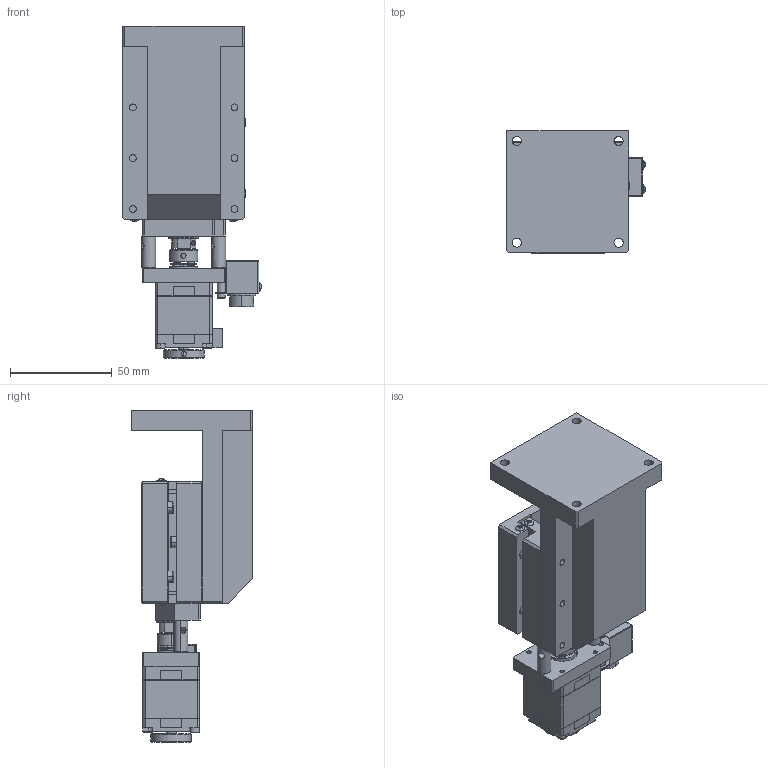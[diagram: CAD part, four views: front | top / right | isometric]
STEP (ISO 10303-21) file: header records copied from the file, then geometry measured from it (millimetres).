
FILE_DESCRIPTION (( 'STEP AP214' ), '1' );
FILE_NAME ('TZS6020B-L1-M28L.STEP', '2025-01-03T09:05:29', ( '' ), ( '' ), 'SwSTEP 2.0', 'SolidWorks 2020', '' );
FILE_SCHEMA (( 'AUTOMOTIVE_DESIGN' ));
Length unit declared in the file: millimetre
Products named in the file (3): D0201-001285 蛌諉啣60x60x96; TXS6020B-L1-M28L; TZS6020B-L1-M28L
Assembly tree (2 placements, depth 2):
  TZS6020B-L1-M28L
    TXS6020B-L1-M28L
    D0201-001285 蛌諉啣60x60x96
Bounding box: 68.13 x 60 x 163.3 mm (x, y, z)
Volume: 242988.4 mm3; surface area: 84801.1 mm2
Topology: 83 solids, 83 shells, 1980 faces, 5138 edges, 3259 vertices
Faces by surface type: plane 966, cylinder 659, cone 175, torus 80, bspline 68, sphere 32
Entity records: 66259 total; most frequent: CARTESIAN_POINT 17081, DIRECTION 10044, ORIENTED_EDGE 9954, EDGE_CURVE 4977, AXIS2_PLACEMENT_3D 3734, VERTEX_POINT 3259, LINE 2576, VECTOR 2576
